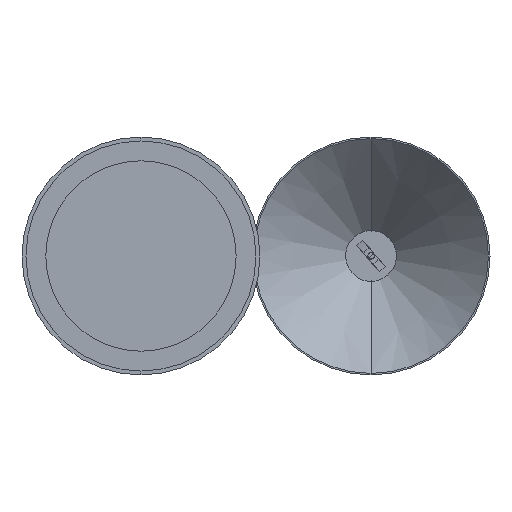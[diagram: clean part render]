
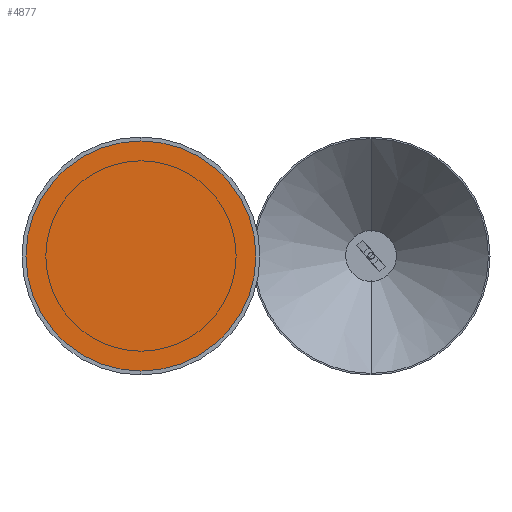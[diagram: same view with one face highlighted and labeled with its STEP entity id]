
A CAD part, front view. The second image highlights one B-rep face of the part: STEP entity #4877.
In plain terms, the highlighted planar face has unit normal (0, -1, 0).
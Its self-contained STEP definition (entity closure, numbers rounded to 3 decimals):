
#445 = DIRECTION ( 'NONE',  ( 0., 0., 1. ) ) ;
#501 = CARTESIAN_POINT ( 'NONE',  ( 0., 0., 0. ) ) ;
#1025 = CIRCLE ( 'NONE', #11217, 72.5 ) ;
#2125 = ORIENTED_EDGE ( 'NONE', *, *, #3041, .F. ) ;
#2228 = EDGE_CURVE ( 'NONE', #9970, #7401, #1025, .T. ) ;
#3041 = EDGE_CURVE ( 'NONE', #7401, #9970, #7241, .T. ) ;
#3817 = CARTESIAN_POINT ( 'NONE',  ( 0., 0., -72.5 ) ) ;
#4382 = CARTESIAN_POINT ( 'NONE',  ( 0., 0., 0. ) ) ;
#4877 = ADVANCED_FACE ( 'NONE', ( #5267 ), #9083, .F. ) ;
#5267 = FACE_OUTER_BOUND ( 'NONE', #8099, .T. ) ;
#5611 = DIRECTION ( 'NONE',  ( 0., 0., 1. ) ) ;
#6283 = ORIENTED_EDGE ( 'NONE', *, *, #2228, .F. ) ;
#7241 = CIRCLE ( 'NONE', #10417, 72.5 ) ;
#7401 = VERTEX_POINT ( 'NONE', #3817 ) ;
#7559 = DIRECTION ( 'NONE',  ( 0., 0., 1. ) ) ;
#7627 = CARTESIAN_POINT ( 'NONE',  ( 0., 0., 72.5 ) ) ;
#8099 = EDGE_LOOP ( 'NONE', ( #2125, #6283 ) ) ;
#8190 = DIRECTION ( 'NONE',  ( 0., 1., 0. ) ) ;
#8320 = AXIS2_PLACEMENT_3D ( 'NONE', #501, #9263, #7559 ) ;
#9083 = PLANE ( 'NONE',  #8320 ) ;
#9263 = DIRECTION ( 'NONE',  ( 0., 1., 0. ) ) ;
#9970 = VERTEX_POINT ( 'NONE', #7627 ) ;
#10363 = DIRECTION ( 'NONE',  ( 0., 1., 0. ) ) ;
#10417 = AXIS2_PLACEMENT_3D ( 'NONE', #4382, #8190, #445 ) ;
#11180 = CARTESIAN_POINT ( 'NONE',  ( 0., 0., 0. ) ) ;
#11217 = AXIS2_PLACEMENT_3D ( 'NONE', #11180, #10363, #5611 ) ;
